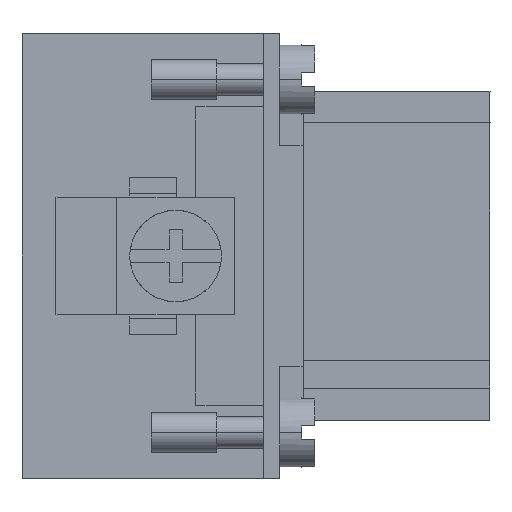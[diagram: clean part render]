
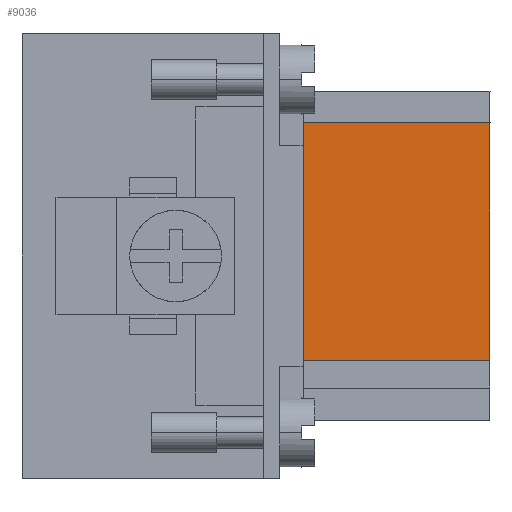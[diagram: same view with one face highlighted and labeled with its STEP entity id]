
A CAD part, left-side view. The second image highlights one B-rep face of the part: STEP entity #9036.
In plain terms, the highlighted planar face has unit normal (-1, 0, 0).
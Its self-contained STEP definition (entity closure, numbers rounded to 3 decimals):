
#35 = ORIENTED_EDGE ( 'NONE', *, *, #10305, .F. ) ;
#61 = LINE ( 'NONE', #11053, #11531 ) ;
#92 = VERTEX_POINT ( 'NONE', #1178 ) ;
#500 = FACE_OUTER_BOUND ( 'NONE', #7465, .T. ) ;
#566 = EDGE_CURVE ( 'NONE', #1740, #4534, #4980, .T. ) ;
#569 = EDGE_CURVE ( 'NONE', #5784, #92, #61, .T. ) ;
#1178 = CARTESIAN_POINT ( 'NONE',  ( -21.55, -14.3, 10.2 ) ) ;
#1740 = VERTEX_POINT ( 'NONE', #6594 ) ;
#2156 = VECTOR ( 'NONE', #9182, 1000. ) ;
#2526 = CARTESIAN_POINT ( 'NONE',  ( -21.55, 57.443, -8. ) ) ;
#2861 = VECTOR ( 'NONE', #5814, 1000. ) ;
#3639 = DIRECTION ( 'NONE',  ( -1., 0., 0. ) ) ;
#3805 = ORIENTED_EDGE ( 'NONE', *, *, #566, .T. ) ;
#3851 = AXIS2_PLACEMENT_3D ( 'NONE', #10337, #3639, #9335 ) ;
#4280 = DIRECTION ( 'NONE',  ( 0., -1., 0. ) ) ;
#4534 = VERTEX_POINT ( 'NONE', #10394 ) ;
#4980 = LINE ( 'NONE', #2526, #2156 ) ;
#5784 = VERTEX_POINT ( 'NONE', #8393 ) ;
#5814 = DIRECTION ( 'NONE',  ( 0., 0., -1. ) ) ;
#6234 = VECTOR ( 'NONE', #9518, 1000. ) ;
#6594 = CARTESIAN_POINT ( 'NONE',  ( -21.55, 0., -8. ) ) ;
#6647 = CARTESIAN_POINT ( 'NONE',  ( -21.55, -14.3, 10.2 ) ) ;
#7465 = EDGE_LOOP ( 'NONE', ( #3805, #8855, #10787, #35 ) ) ;
#7597 = CARTESIAN_POINT ( 'NONE',  ( -21.55, 0., 10.2 ) ) ;
#8393 = CARTESIAN_POINT ( 'NONE',  ( -21.55, 0., 10.2 ) ) ;
#8629 = LINE ( 'NONE', #6647, #2861 ) ;
#8855 = ORIENTED_EDGE ( 'NONE', *, *, #9911, .F. ) ;
#9036 = ADVANCED_FACE ( 'NONE', ( #500 ), #12273, .T. ) ;
#9182 = DIRECTION ( 'NONE',  ( 0., -1., 0. ) ) ;
#9335 = DIRECTION ( 'NONE',  ( 0., 0., -1. ) ) ;
#9518 = DIRECTION ( 'NONE',  ( 0., 0., 1. ) ) ;
#9911 = EDGE_CURVE ( 'NONE', #92, #4534, #8629, .T. ) ;
#9983 = LINE ( 'NONE', #7597, #6234 ) ;
#10305 = EDGE_CURVE ( 'NONE', #1740, #5784, #9983, .T. ) ;
#10337 = CARTESIAN_POINT ( 'NONE',  ( -21.55, 57.443, 10.2 ) ) ;
#10394 = CARTESIAN_POINT ( 'NONE',  ( -21.55, -14.3, -8. ) ) ;
#10787 = ORIENTED_EDGE ( 'NONE', *, *, #569, .F. ) ;
#11053 = CARTESIAN_POINT ( 'NONE',  ( -21.55, 57.443, 10.2 ) ) ;
#11531 = VECTOR ( 'NONE', #4280, 1000. ) ;
#12273 = PLANE ( 'NONE',  #3851 ) ;
